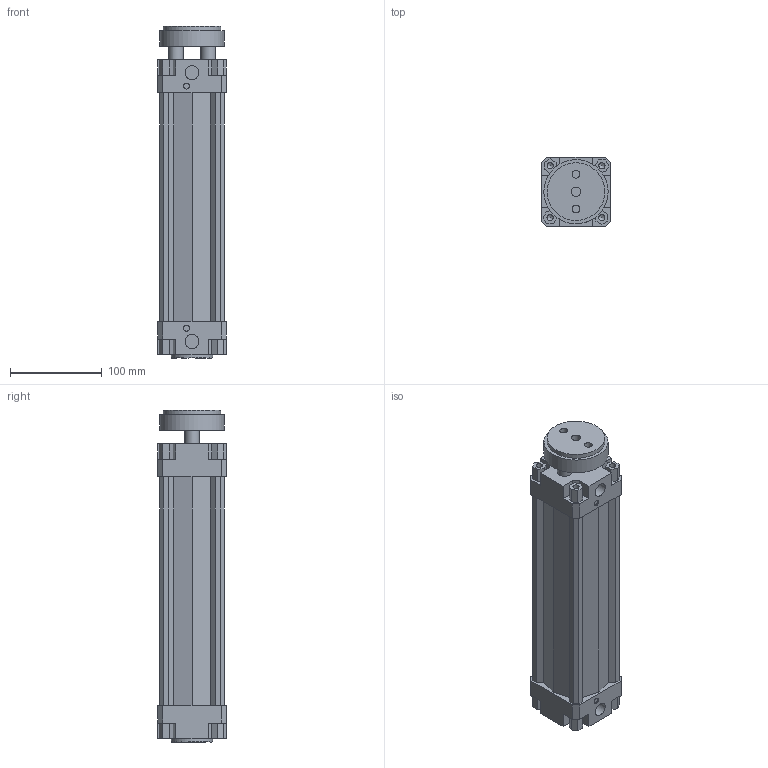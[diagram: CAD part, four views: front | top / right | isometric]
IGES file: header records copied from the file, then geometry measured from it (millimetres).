
Global section: file name: 132#_063_0200_01; native system: Autodesk Inventor 2014; preprocessor: unknown; author: A. Manieri; date: 20161006.155953; units: millimetre
Bounding box: 75 x 75 x 362 mm (x, y, z)
Volume: 998650.1 mm3; surface area: 231848.4 mm2
Topology: 2 solids, 2 shells, 180 faces, 491 edges, 335 vertices
Faces by surface type: bspline 180
